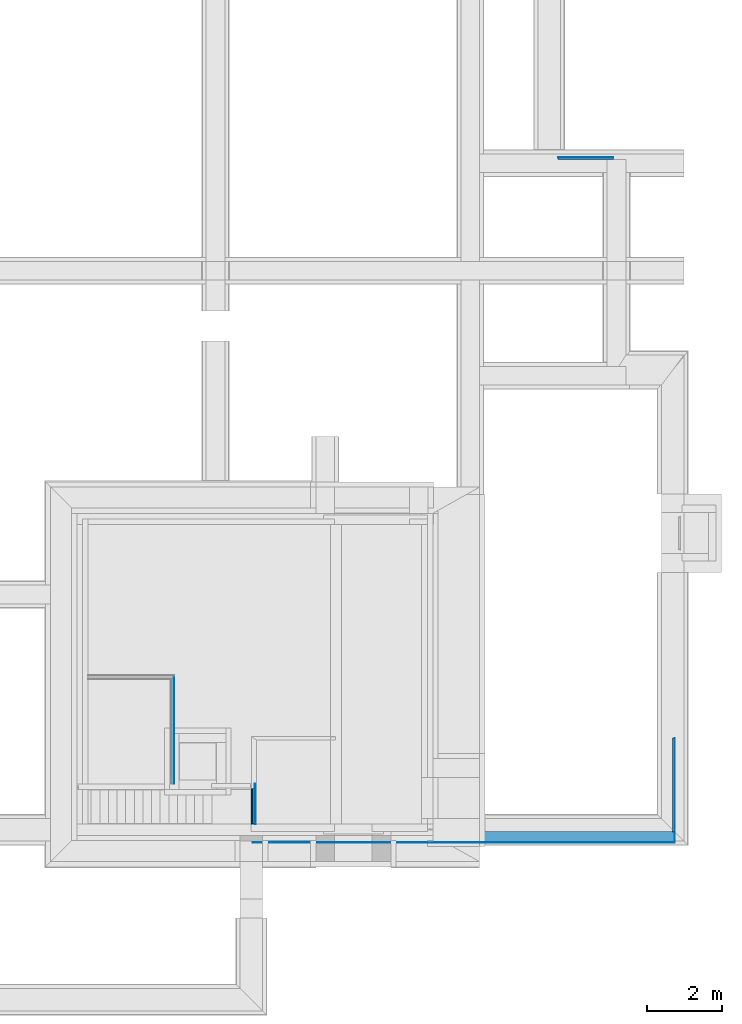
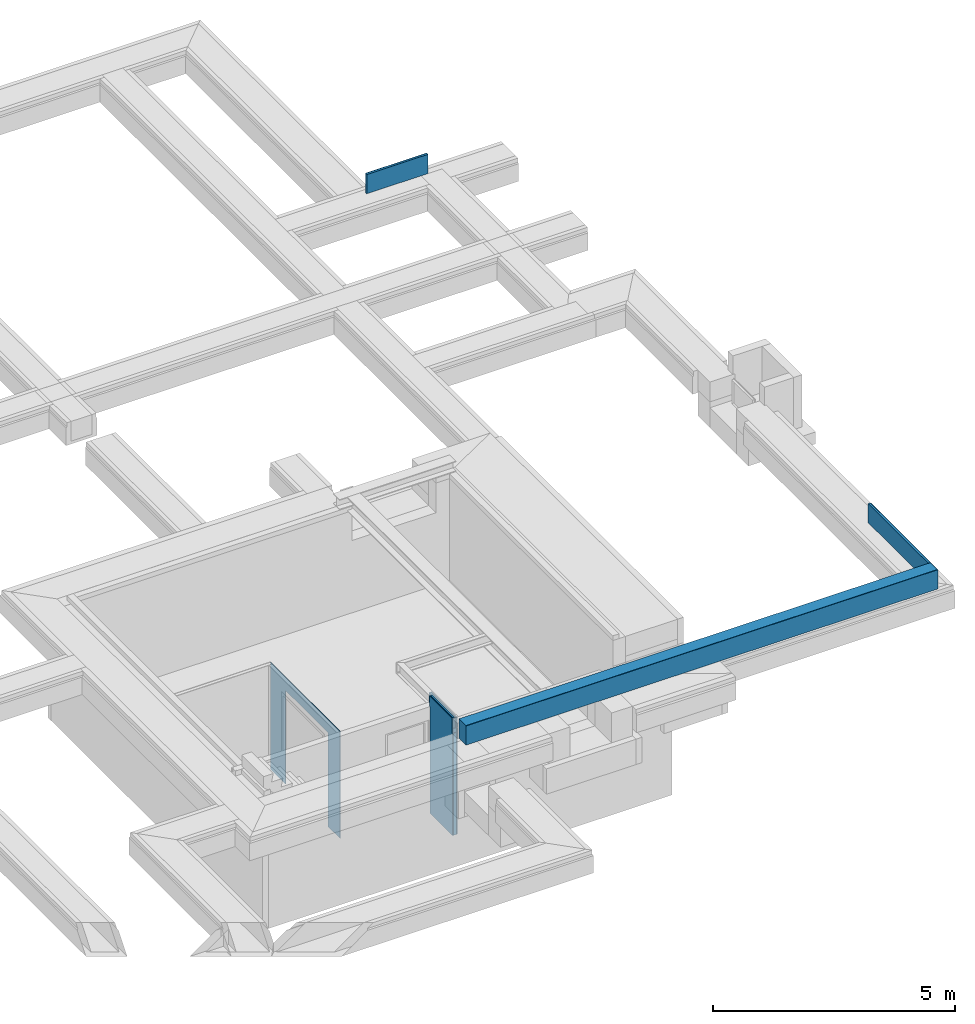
# One storey, part 6 of 11: 12 building element parts, 1 opening, 5 elements without a shape of their own.
"""IFC2X3 building model written with IfcOpenShell, lengths in millimetres."""

from ifc_helpers import new_model, entity, si_unit, converted_unit, derived_unit, money_unit, direction, frame, origin_with_axes, place, context, subcontext, project, spatial, faceted_brep, material, type_object, element, aggregate, save


model = new_model("IFC2X3")

# Units and contexts
model_context = context("Model", 3, precision=0.01, world=origin_with_axes(), true_north=direction((0.0, 1.0)))
body_context = subcontext(model_context, "Body", "Model", "MODEL_VIEW")
ifc_project = project(units=[si_unit("LENGTHUNIT", "METRE", prefix="MILLI"), si_unit("AREAUNIT", "SQUARE_METRE"), si_unit("VOLUMEUNIT", "CUBIC_METRE"), converted_unit("PLANEANGLEUNIT", "DEGREE", entity("IfcPlaneAngleMeasure", 0.0174532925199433), si_unit("PLANEANGLEUNIT", "RADIAN"), dimensions=[0, 0, 0, 0, 0, 0, 0]), money_unit("EUR"), converted_unit("TIMEUNIT", "Year", entity("IfcTimeMeasure", 31556926.0), si_unit("TIMEUNIT", "SECOND"), dimensions=[0, 0, 1, 0, 0, 0, 0]), si_unit("MASSUNIT", "GRAM", prefix="KILO"), si_unit("THERMODYNAMICTEMPERATUREUNIT", "DEGREE_CELSIUS"), si_unit("LUMINOUSINTENSITYUNIT", "LUMEN"), si_unit("ENERGYUNIT", "JOULE", prefix="MEGA"), derived_unit("THERMALCONDUCTANCEUNIT", [(si_unit("POWERUNIT", "WATT"), 1), (si_unit("LENGTHUNIT", "METRE"), -1), (si_unit("THERMODYNAMICTEMPERATUREUNIT", "KELVIN"), -1)]), derived_unit("SPECIFICHEATCAPACITYUNIT", [(si_unit("ENERGYUNIT", "JOULE"), 1), (si_unit("MASSUNIT", "GRAM", prefix="KILO"), -1), (si_unit("THERMODYNAMICTEMPERATUREUNIT", "KELVIN"), -1)]), derived_unit("MASSDENSITYUNIT", [(si_unit("MASSUNIT", "GRAM", prefix="KILO"), 1), (si_unit("VOLUMEUNIT", "CUBIC_METRE"), -1)])], contexts=[model_context])

# Site, building, storey
site_placement = place(None, origin_with_axes())
site = spatial("IfcSite", under=ifc_project, at=site_placement, Name="Site", CompositionType="ELEMENT")
building_placement = place(site_placement, origin_with_axes())
building = spatial("IfcBuilding", under=site, at=building_placement, Name="Naam gebouw", CompositionType="ELEMENT")
storey_placement = place(building_placement, frame((0.0, 0.0, -3060.0), z_axis=(0.0, 0.0, 1.0), x_axis=(1.0, 0.0, 0.0)))
storey = spatial("IfcBuildingStorey", under=building, at=storey_placement, Name="Kelder", CompositionType="ELEMENT", Elevation=-3060.0)

# Wall, building element parts
wall_type_1 = type_object("IfcWallType", Name="21 Kantplank 60 60", PredefinedType="NOTDEFINED")
wall_1_placement = place(storey_placement, frame((26849.99999851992, 22424.97623784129, 2575.0), z_axis=(0.0, 0.0, 1.0), x_axis=(1.0, 0.0, 0.0)))
wall_1 = element("IfcWall", 1, at=wall_1_placement, inside=storey, type_object=wall_type_1, Name="21_Wand-x")
ifc_material_1 = material(Name="Cementgebonden plaatmateriaal")
building_element_part_1_placement = place(wall_1_placement, origin_with_axes())
building_element_part_1 = element("IfcBuildingElementPart", 2, at=building_element_part_1_placement, material=ifc_material_1, Name="Cementgebonden plaatmateriaal", context=body_context, shape_type="Brep", body=[
    faceted_brep([(1466.000072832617, 50.00000000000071, 484.9999999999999), (1466.000072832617, 59.99999999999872, 484.9999999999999), (0.0, 59.99999999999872, 484.9999999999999), (0.0, 50.00000000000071, 484.9999999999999), (1466.000072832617, 50.00000000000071, 0.0), (1466.000072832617, 59.99999999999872, 0.0), (0.0, 59.99999999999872, 0.0), (0.0, 50.00000000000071, 0.0)], [[[0, 1, 2, 3]], [[0, 4, 5, 1]], [[1, 5, 6, 2]], [[3, 2, 6, 7]], [[4, 0, 3, 7]], [[5, 4, 7, 6]]]),
])
ifc_material_2 = material(Name="Isolatie - Kunststof hard")
building_element_part_2_placement = place(wall_1_placement, origin_with_axes())
building_element_part_2 = element("IfcBuildingElementPart", 3, at=building_element_part_2_placement, material=ifc_material_2, Name="Isolatie - Kunststof hard", context=body_context, shape_type="Brep", body=[
    faceted_brep([(1466.000072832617, 0.0, 484.9999999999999), (1466.000072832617, 50.00000000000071, 484.9999999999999), (0.0, 50.00000000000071, 484.9999999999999), (0.0, 0.0, 484.9999999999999), (1466.000072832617, 0.0, 0.0), (1466.000072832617, 50.00000000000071, 0.0), (0.0, 50.00000000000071, 0.0), (0.0, 0.0, 0.0)], [[[0, 1, 2, 3]], [[0, 4, 5, 1]], [[1, 5, 6, 2]], [[3, 2, 6, 7]], [[4, 0, 3, 7]], [[5, 4, 7, 6]]]),
])
aggregate(wall_1, [building_element_part_1, building_element_part_2])

wall_2_placement = place(storey_placement, frame((29900.0, 6968.997857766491, 2575.0), z_axis=(0.0, 0.0, 1.0), x_axis=(0.0, -1.0, 0.0)))
wall_2 = element("IfcWall", 4, at=wall_2_placement, inside=storey, type_object=wall_type_1, Name="21_Wand-x")
building_element_part_3_placement = place(wall_2_placement, origin_with_axes())
building_element_part_3 = element("IfcBuildingElementPart", 5, at=building_element_part_3_placement, material=ifc_material_1, Name="Cementgebonden plaatmateriaal", context=body_context, shape_type="Brep", body=[
    faceted_brep([(2773.997857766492, 59.99999999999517, 484.9999999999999), (0.0, 59.99999999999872, 484.9999999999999), (0.0, 50.00000000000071, 484.9999999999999), (2773.997857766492, 49.99999999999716, 484.9999999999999), (2773.997857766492, 59.99999999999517, 0.0), (0.0, 59.99999999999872, 0.0), (0.0, 50.00000000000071, 0.0), (2773.997857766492, 49.99999999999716, 0.0)], [[[0, 1, 2, 3]], [[4, 5, 1, 0]], [[2, 1, 5, 6]], [[3, 2, 6, 7]], [[3, 7, 4, 0]], [[7, 6, 5, 4]]]),
])
building_element_part_4_placement = place(wall_2_placement, origin_with_axes())
building_element_part_4 = element("IfcBuildingElementPart", 6, at=building_element_part_4_placement, material=ifc_material_2, Name="Isolatie - Kunststof hard", context=body_context, shape_type="Brep", body=[
    faceted_brep([(2488.997857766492, 49.99999999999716, 484.9999999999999), (0.0, 50.00000000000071, 484.9999999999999), (0.0, 0.0, 484.9999999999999), (2488.997857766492, 0.0, 484.9999999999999), (2488.997857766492, 49.99999999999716, 0.0), (0.0, 50.00000000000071, 0.0), (0.0, 0.0, 0.0), (2488.997857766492, 0.0, 0.0)], [[[0, 1, 2, 3]], [[4, 5, 1, 0]], [[2, 1, 5, 6]], [[3, 2, 6, 7]], [[3, 7, 4, 0]], [[7, 6, 5, 4]]]),
])
aggregate(wall_2, [building_element_part_3, building_element_part_4])

wall_type_2 = type_object("IfcWallType", Name="21 Kantplank 300 297", PredefinedType="NOTDEFINED")
wall_3_placement = place(storey_placement, frame((29900.0, 4479.999999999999, 2575.0), z_axis=(0.0, 0.0, 1.0), x_axis=(-1.0, 0.0, 0.0)))
wall_3 = element("IfcWall", 7, at=wall_3_placement, inside=storey, type_object=wall_type_2, Name="21_Wand-x")
building_element_part_5_placement = place(wall_3_placement, origin_with_axes())
building_element_part_5 = element("IfcBuildingElementPart", 8, at=building_element_part_5_placement, material=ifc_material_1, Name="Cementgebonden plaatmateriaal", context=body_context, shape_type="Brep", body=[
    faceted_brep([(11209.99971551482, 285.000000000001, 484.9999999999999), (11209.99971551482, 297.0000000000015, 484.9999999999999), (-59.99999999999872, 296.9999999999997, 484.9999999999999), (-59.99999999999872, 285.0000000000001, 484.9999999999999), (11209.99971551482, 285.000000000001, 0.0), (11209.99971551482, 297.0000000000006, 0.0), (-59.99999999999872, 296.9999999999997, 0.0), (-59.99999999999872, 285.0000000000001, 0.0)], [[[0, 1, 2, 3]], [[0, 4, 5, 1]], [[1, 5, 6, 2]], [[3, 2, 6, 7]], [[4, 0, 3, 7]], [[5, 4, 7, 6]]]),
])
building_element_part_6_placement = place(wall_3_placement, origin_with_axes())
building_element_part_6 = element("IfcBuildingElementPart", 9, at=building_element_part_6_placement, material=ifc_material_2, Name="Isolatie - Kunststof hard", context=body_context, shape_type="Brep", body=[
    faceted_brep([(11209.99971551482, 0.0, 484.9999999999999), (11209.99971551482, 285.000000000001, 484.9999999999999), (-50.00000000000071, 285.0000000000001, 484.9999999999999), (-50.00000000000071, 0.0, 484.9999999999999), (11209.99971551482, 0.0, 0.0), (11209.99971551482, 285.000000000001, 0.0), (-50.00000000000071, 285.0000000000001, 0.0), (-50.00000000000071, 0.0, 0.0)], [[[0, 1, 2, 3]], [[0, 4, 5, 1]], [[1, 5, 6, 2]], [[3, 2, 6, 7]], [[4, 0, 3, 7]], [[5, 4, 7, 6]]]),
])
aggregate(wall_3, [building_element_part_5, building_element_part_6])

# Proxy, opening, building element part
building_element_proxy_type_1 = type_object("IfcBuildingElementProxyType", Name="22 Metal stud 100 gips 100", PredefinedType="NOTDEFINED")
proxy_1_placement = place(storey_placement, frame((16600.566024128, 8654.99997317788, 0.0), z_axis=(0.0, 0.0, 1.0), x_axis=(0.0, -1.0, 0.0)))
proxy_1 = element("IfcBuildingElementProxy", 10, at=proxy_1_placement, inside=storey, type_object=building_element_proxy_type_1, Name="_Wand-x")
opening_placement = place(proxy_1_placement, frame((1517.999974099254, 0.0, 0.0), z_axis=(0.0, 0.0, 1.0), x_axis=(1.0, 0.0, 0.0)))
element("IfcOpeningElement", 11, at=opening_placement, cuts=proxy_1, Name="_03.06", context=body_context, shape_type="Brep", body=[
    faceted_brep([(-881.9999999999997, -101.0000000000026, 2367.0), (-881.9999999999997, -101.0000000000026, -100.0000000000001), (881.9999999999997, -101.0000000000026, -100.0000000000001), (881.9999999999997, -101.0000000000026, 2367.0), (-881.9999999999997, 1.000000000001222, 2367.0), (-881.9999999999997, 1.000000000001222, -100.0000000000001), (881.9999999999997, 1.000000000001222, -100.0000000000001), (881.9999999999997, 1.000000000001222, 2367.0)], [[[0, 1, 2, 3]], [[4, 5, 1, 0]], [[5, 6, 2, 1]], [[6, 7, 3, 2]], [[7, 4, 0, 3]], [[6, 5, 4, 7]]]),
])
ifc_material_3 = material(Name="Gipsplaat")
building_element_part_7_placement = place(proxy_1_placement, origin_with_axes())
building_element_part_7 = element("IfcBuildingElementPart", 12, at=building_element_part_7_placement, material=ifc_material_3, Name="Gipsplaat", context=body_context, shape_type="Brep", body=[
    faceted_brep([(2399.999974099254, 0.0, 0.0), (2399.999974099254, 1.017141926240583e-08, 2367.0), (635.9999740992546, 1.017141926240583e-08, 2367.0), (635.9999740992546, 0.0, 0.0), (12.49999999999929, 0.0, 0.0), (12.49999999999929, 1.017141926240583e-08, 2700.0), (2899.999974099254, 2.973585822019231e-07, 2700.0), (2899.999974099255, 0.0, 0.0), (2399.999974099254, -12.49999999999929, 0.0), (2399.999974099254, -12.49999999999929, 2367.0), (635.9999740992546, -12.49999999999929, 2367.0), (635.9999740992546, -12.49999999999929, 0.0), (12.49999999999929, -12.49999999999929, 0.0), (12.49999999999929, -12.49999999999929, 2700.0), (2899.999974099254, -12.49999999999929, 2700.0), (2899.999974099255, -12.49999999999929, 0.0)], [[[0, 1, 2, 3, 4, 5, 6, 7]], [[1, 0, 8, 9]], [[2, 1, 9, 10]], [[3, 2, 10, 11]], [[3, 11, 12, 4]], [[5, 4, 12, 13]], [[5, 13, 14, 6]], [[14, 15, 7, 6]], [[8, 0, 7, 15]], [[9, 8, 15, 14, 13, 12, 11, 10]]]),
])
aggregate(proxy_1, [building_element_part_7])

# Proxy, building element parts
building_element_proxy_type_2 = type_object("IfcBuildingElementProxyType", Name="22 Metal stud 125 gips 125", PredefinedType="NOTDEFINED")
proxy_2_placement = place(storey_placement, frame((18774.99941438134, 5754.999999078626, 0.0), z_axis=(0.0, 0.0, 1.0), x_axis=(6.792394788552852e-08, -0.9999999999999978, 0.0)))
proxy_2 = element("IfcBuildingElementProxy", 13, at=proxy_2_placement, inside=storey, type_object=building_element_proxy_type_2, Name="_Wand-x")
building_element_part_8_placement = place(proxy_2_placement, origin_with_axes())
building_element_part_8 = element("IfcBuildingElementPart", 14, at=building_element_part_8_placement, material=ifc_material_3, Name="Gipsplaat", context=body_context, shape_type="Brep", body=[
    faceted_brep([(149.9999991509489, -12.50001018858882, 2685.0), (149.9999999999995, 0.0, 2685.0), (149.9999999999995, 0.0, 0.0), (149.9999991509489, -12.50001018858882, 0.0), (1060.999999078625, -7.440452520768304e-05, 2685.0), (1060.999998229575, -12.50007206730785, 2685.0), (1060.999999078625, -7.452600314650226e-05, 2575.0), (1074.999999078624, -7.547693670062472e-05, 2575.0), (1074.999999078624, -7.301824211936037e-05, 0.0), (1074.999998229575, -12.50007301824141, 0.0), (1074.999998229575, -12.50007301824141, 2575.0), (1060.999998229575, -12.50007206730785, 2575.0)], [[[0, 1, 2, 3]], [[4, 1, 0, 5]], [[1, 4, 6, 7, 8, 2]], [[8, 9, 3, 2]], [[5, 0, 3, 9, 10, 11]], [[4, 5, 11, 6]], [[6, 11, 10, 7]], [[10, 9, 8, 7]]]),
    faceted_brep([(7.994126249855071e-06, -5.619824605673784e-07, 2944.8), (1060.999999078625, -7.411761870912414e-05, 2944.8), (1060.999999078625, -7.439325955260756e-05, 2695.2), (149.9999999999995, 0.0, 2695.2), (149.9999999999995, 0.0, 2700.000000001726), (0.0, 0.0, 2700.000000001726), (7.145076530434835e-06, -12.49999999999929, 2944.8), (1060.999998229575, -12.50007206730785, 2944.8), (1060.999998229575, -12.50007206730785, 2695.2), (149.9999991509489, -12.50001018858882, 2695.2), (149.9999991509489, -12.50001018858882, 2700.000000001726), (-8.490506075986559e-07, -12.49999999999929, 2700.000000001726)], [[[0, 1, 2, 3, 4, 5]], [[1, 0, 6, 7]], [[1, 7, 8, 2]], [[9, 3, 2, 8]], [[3, 9, 10, 4]], [[4, 10, 11, 5]], [[6, 0, 5, 11]], [[7, 6, 11, 10, 9, 8]]]),
])
ifc_material_4 = material(Name="ALG - LICHTE SCHEIDINGSWAND")
building_element_part_9_placement = place(proxy_2_placement, origin_with_axes())
building_element_part_9 = element("IfcBuildingElementPart", 15, at=building_element_part_9_placement, material=ifc_material_4, Name="ALG - LICHTE SCHEIDINGSWAND", context=body_context, shape_type="Brep", body=[
    faceted_brep([(1060.99999466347, -65.00153088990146, 2955.0), (124.9999946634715, -65.00146731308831, 2955.0), (124.9999946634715, -65.00146731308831, 2960.0), (1060.99999466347, -65.00153088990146, 2960.0), (124.9999922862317, -100.0000084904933, 2955.0), (1060.99999228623, -100.00007206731, 2955.0), (124.9999922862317, -100.0000084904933, 2960.0), (1060.99999228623, -100.00007206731, 2960.0)], [[[0, 1, 2, 3]], [[4, 1, 0, 5]], [[1, 4, 6, 2]], [[3, 2, 6, 7]], [[5, 0, 3, 7]], [[4, 5, 7, 6]]]),
    faceted_brep([(-3.79025610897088e-06, -55.80145882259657, 2944.8), (-3.79025610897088e-06, -55.80145882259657, 2700.000000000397), (-4.415156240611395e-06, -65.00145882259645, 2700.0), (-4.415156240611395e-06, -65.00145882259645, 2944.8), (1060.99999528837, -55.80153088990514, 2944.8), (1060.99999528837, -55.80153088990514, 2695.2), (149.9999962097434, -55.8014690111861, 2695.2), (149.9999962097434, -55.8014690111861, 2700.000000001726), (149.9999932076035, -100.0000101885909, 2700.000000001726), (124.9999922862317, -100.0000084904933, 2700.0), (124.9999946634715, -65.00146731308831, 2700.0), (124.9999946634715, -65.00146731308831, 2944.8), (124.9999922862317, -100.0000084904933, 2944.8), (1060.99999228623, -100.00007206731, 2944.8), (1060.99999228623, -100.00007206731, 2695.2), (149.9999932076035, -100.0000101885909, 2695.2)], [[[0, 1, 2, 3]], [[1, 0, 4, 5, 6, 7]], [[1, 7, 8, 9, 10, 2]], [[11, 3, 2, 10]], [[0, 3, 11, 12, 13, 4]], [[4, 13, 14, 5]], [[15, 6, 5, 14]], [[6, 15, 8, 7]], [[13, 12, 9, 8, 15, 14]], [[12, 11, 10, 9]]]),
    faceted_brep([(149.9999932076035, -100.0000101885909, 2685.0), (149.9999983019, -25.00001018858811, 2685.0), (149.9999983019, -25.00001018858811, 0.0), (149.9999932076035, -100.0000101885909, 0.0), (1060.999997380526, -25.00007206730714, 2685.0), (1060.99999228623, -100.00007206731, 2685.0), (1060.999997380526, -25.00007206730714, 2575.0), (1074.999997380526, -25.0000730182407, 2575.0), (1074.999997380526, -25.0000730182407, 0.0), (1074.999992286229, -100.0000730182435, 0.0), (1074.999992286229, -100.0000730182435, 2575.0), (1060.99999228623, -100.00007206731, 2575.0)], [[[0, 1, 2, 3]], [[4, 1, 0, 5]], [[1, 4, 6, 7, 8, 2]], [[8, 9, 3, 2]], [[5, 0, 3, 9, 10, 11]], [[4, 5, 11, 6]], [[6, 11, 10, 7]], [[10, 9, 8, 7]]]),
    faceted_brep([(-3.341957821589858e-06, -49.20145882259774, 2700.000000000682), (-3.341957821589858e-06, -49.20145882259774, 2944.8), (6.296027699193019e-06, -24.99999999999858, 2944.8), (-1.698099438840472e-06, -24.99999999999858, 2700.000000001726), (149.9999966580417, -49.20146901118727, 2700.000000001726), (149.9999966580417, -49.20146901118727, 2695.2), (1060.999995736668, -49.20153088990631, 2695.2), (1060.999995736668, -49.20153088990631, 2944.8), (1060.999997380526, -25.00007206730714, 2944.8), (1060.999997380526, -25.00007206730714, 2695.2), (149.9999983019, -25.00001018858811, 2695.2), (149.9999983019, -25.00001018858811, 2700.000000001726)], [[[0, 1, 2, 3]], [[1, 0, 4, 5, 6, 7]], [[8, 2, 1, 7]], [[9, 10, 11, 3, 2, 8]], [[4, 0, 3, 11]], [[5, 4, 11, 10]], [[5, 10, 9, 6]], [[6, 9, 8, 7]]]),
])
building_element_part_10_placement = place(proxy_2_placement, origin_with_axes())
building_element_part_10 = element("IfcBuildingElementPart", 16, at=building_element_part_10_placement, material=ifc_material_3, Name="Gipsplaat", context=body_context, shape_type="Brep", body=[
    faceted_brep([(149.9999923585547, -112.5000101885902, 2685.0), (149.9999932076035, -100.0000101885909, 2685.0), (149.9999932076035, -100.0000101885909, 0.0), (149.9999923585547, -112.5000101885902, 0.0), (1060.99999228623, -100.00007206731, 2685.0), (1060.999991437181, -112.5000720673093, 2685.0), (1060.99999228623, -100.00007206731, 2575.0), (1074.999992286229, -100.0000730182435, 2575.0), (1074.999992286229, -100.0000730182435, 0.0), (1074.99999143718, -112.5000730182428, 0.0), (1074.99999143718, -112.5000730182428, 2575.0), (1060.999991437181, -112.5000720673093, 2575.0)], [[[0, 1, 2, 3]], [[4, 1, 0, 5]], [[1, 4, 6, 7, 8, 2]], [[8, 9, 3, 2]], [[5, 0, 3, 9, 10, 11]], [[4, 5, 11, 6]], [[6, 11, 10, 7]], [[10, 9, 8, 7]]]),
    faceted_brep([(124.9999922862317, -100.0000084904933, 2944.8), (1060.99999228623, -100.00007206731, 2944.8), (1060.99999228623, -100.00007206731, 2695.2), (149.9999932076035, -100.0000101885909, 2695.2), (149.9999932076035, -100.0000101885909, 2700.000000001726), (124.9999922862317, -100.0000084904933, 2700.0), (124.9999914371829, -112.5000084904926, 2944.8), (1060.999991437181, -112.5000720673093, 2944.8), (1060.999991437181, -112.5000720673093, 2695.2), (149.9999923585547, -112.5000101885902, 2695.2), (149.9999923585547, -112.5000101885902, 2700.000000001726), (124.9999914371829, -112.5000084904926, 2700.0)], [[[0, 1, 2, 3, 4, 5]], [[1, 0, 6, 7]], [[1, 7, 8, 2]], [[9, 3, 2, 8]], [[3, 9, 10, 4]], [[10, 11, 5, 4]], [[6, 0, 5, 11]], [[7, 6, 11, 10, 9, 8]]]),
    faceted_brep([(1060.99999228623, -100.00007206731, 2955.0), (124.9999922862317, -100.0000084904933, 2955.0), (124.9999922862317, -100.0000084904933, 2960.0), (1060.99999228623, -100.00007206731, 2960.0), (124.9999914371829, -112.5000084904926, 2955.0), (1060.999991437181, -112.5000720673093, 2955.0), (124.9999914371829, -112.5000084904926, 2960.0), (1060.999991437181, -112.5000720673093, 2960.0)], [[[0, 1, 2, 3]], [[4, 1, 0, 5]], [[1, 4, 6, 2]], [[3, 2, 6, 7]], [[5, 0, 3, 7]], [[4, 5, 7, 6]]]),
])
building_element_part_11_placement = place(proxy_2_placement, origin_with_axes())
building_element_part_11 = element("IfcBuildingElementPart", 17, at=building_element_part_11_placement, material=ifc_material_3, Name="Gipsplaat", context=body_context, shape_type="Brep", body=[
    faceted_brep([(124.9999914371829, -112.5000084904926, 2944.8), (1060.999991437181, -112.5000720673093, 2944.8), (1060.999991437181, -112.5000720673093, 2695.2), (149.9999923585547, -112.5000101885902, 2695.2), (149.9999923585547, -112.5000101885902, 2700.000000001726), (124.9999914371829, -112.5000084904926, 2700.0), (124.9999909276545, -120.001467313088, 2944.8), (1060.999990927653, -120.0015308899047, 2944.8), (1060.999990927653, -120.0015308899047, 2955.0), (1060.999991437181, -112.5000720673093, 2955.0), (1060.999991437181, -112.5000720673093, 2960.0), (1060.999990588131, -125.0000720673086, 2960.0), (1060.999990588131, -125.0000720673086, 2575.0), (1060.999991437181, -112.5000720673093, 2575.0), (1060.999991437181, -112.5000720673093, 2685.0), (1060.999990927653, -120.0015308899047, 2685.0), (1060.999990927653, -120.0015308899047, 2695.2), (149.9999918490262, -120.0014690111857, 2695.2), (149.9999918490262, -120.0014690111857, 2685.0), (149.9999923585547, -112.5000101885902, 2685.0), (149.9999923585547, -112.5000101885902, 0.0), (149.9999915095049, -125.0000101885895, 0.0), (149.9999915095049, -125.0000101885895, 2700.000000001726), (124.9999905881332, -125.0000084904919, 2700.0), (124.9999905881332, -125.0000084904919, 2960.0), (124.9999914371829, -112.5000084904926, 2960.0), (124.9999914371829, -112.5000084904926, 2955.0), (124.9999909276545, -120.001467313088, 2955.0), (1074.999990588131, -125.0000730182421, 0.0), (1074.999990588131, -125.0000730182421, 2575.0), (1074.99999143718, -112.5000730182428, 2575.0), (1074.99999143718, -112.5000730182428, 0.0)], [[[0, 1, 2, 3, 4, 5]], [[1, 0, 6, 7]], [[8, 9, 10, 11, 12, 13, 14, 15, 16, 2, 1, 7]], [[17, 3, 2, 16]], [[18, 19, 20, 21, 22, 4, 3, 17]], [[22, 23, 5, 4]], [[6, 0, 5, 23, 24, 25, 26, 27]], [[6, 27, 8, 7]], [[27, 26, 9, 8]], [[9, 26, 25, 10]], [[10, 25, 24, 11]], [[11, 24, 23, 22, 21, 28, 29, 12]], [[13, 12, 29, 30]], [[19, 14, 13, 30, 31, 20]], [[14, 19, 18, 15]], [[18, 17, 16, 15]], [[31, 28, 21, 20]], [[29, 28, 31, 30]]]),
])
building_element_part_12_placement = place(proxy_2_placement, origin_with_axes())
building_element_part_12 = element("IfcBuildingElementPart", 18, at=building_element_part_12_placement, material=ifc_material_3, Name="Gipsplaat", context=body_context, shape_type="Brep", body=[
    faceted_brep([(149.9999983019, -25.00001018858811, 2685.0), (149.9999991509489, -12.50001018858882, 2685.0), (149.9999991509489, -12.50001018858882, 0.0), (149.9999983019, -25.00001018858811, 0.0), (1060.999998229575, -12.50007206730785, 2685.0), (1060.999997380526, -25.00007206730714, 2685.0), (1060.999998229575, -12.50007206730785, 2575.0), (1074.999998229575, -12.50007301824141, 2575.0), (1074.999998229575, -12.50007301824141, 0.0), (1074.999997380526, -25.0000730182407, 0.0), (1074.999997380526, -25.0000730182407, 2575.0), (1060.999997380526, -25.00007206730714, 2575.0)], [[[0, 1, 2, 3]], [[4, 1, 0, 5]], [[1, 4, 6, 7, 8, 2]], [[8, 9, 3, 2]], [[5, 0, 3, 9, 10, 11]], [[4, 5, 11, 6]], [[6, 11, 10, 7]], [[10, 9, 8, 7]]]),
    faceted_brep([(7.145076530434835e-06, -12.49999999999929, 2944.8), (1060.999998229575, -12.50007206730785, 2944.8), (1060.999998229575, -12.50007206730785, 2695.2), (149.9999991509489, -12.50001018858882, 2695.2), (149.9999991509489, -12.50001018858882, 2700.000000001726), (-8.490506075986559e-07, -12.49999999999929, 2700.000000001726), (6.296027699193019e-06, -24.99999999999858, 2944.8), (1060.999997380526, -25.00007206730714, 2944.8), (1060.999997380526, -25.00007206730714, 2695.2), (149.9999983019, -25.00001018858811, 2695.2), (149.9999983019, -25.00001018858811, 2700.000000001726), (-1.698099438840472e-06, -24.99999999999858, 2700.000000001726)], [[[0, 1, 2, 3, 4, 5]], [[1, 0, 6, 7]], [[1, 7, 8, 2]], [[9, 3, 2, 8]], [[3, 9, 10, 4]], [[4, 10, 11, 5]], [[6, 0, 5, 11]], [[7, 6, 11, 10, 9, 8]]]),
])
aggregate(proxy_2, [building_element_part_8, building_element_part_9, building_element_part_10, building_element_part_11, building_element_part_12])

save(model, "model.ifc")
